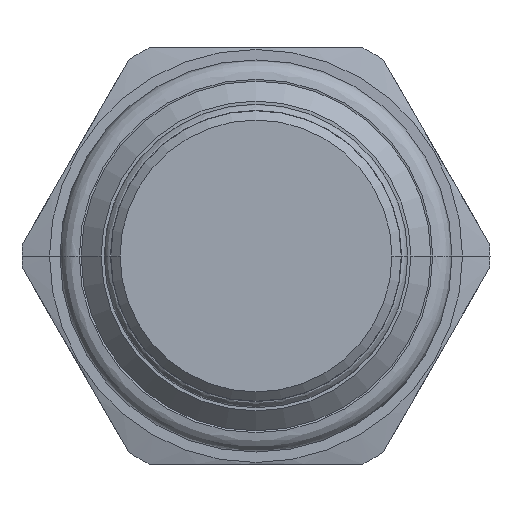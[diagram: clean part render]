
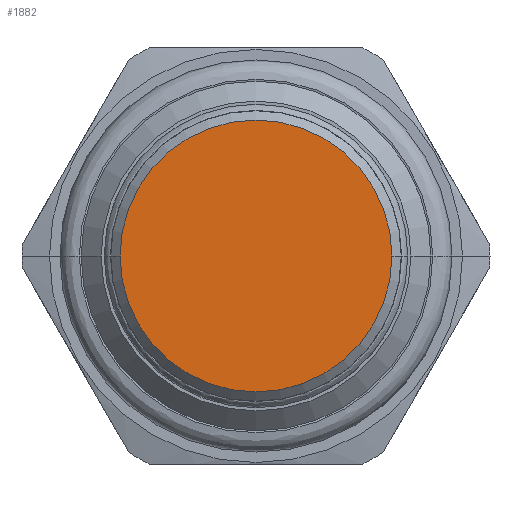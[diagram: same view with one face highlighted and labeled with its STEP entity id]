
A CAD part, front view. The second image highlights one B-rep face of the part: STEP entity #1882.
In plain terms, the highlighted planar face has unit normal (0, -1, 0).
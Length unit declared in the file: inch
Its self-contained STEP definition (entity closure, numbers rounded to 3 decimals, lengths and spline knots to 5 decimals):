
#56=CARTESIAN_POINT('',(0.,-1.81,0.));
#57=DIRECTION('',(0.,-1.,0.));
#58=DIRECTION('',(-1.,0.,0.));
#59=AXIS2_PLACEMENT_3D('',#56,#57,#58);
#80=CARTESIAN_POINT('',(0.,-1.81,0.));
#81=DIRECTION('',(0.,1.,0.));
#82=DIRECTION('',(-1.,0.,0.));
#83=AXIS2_PLACEMENT_3D('',#80,#81,#82);
#1653=CARTESIAN_POINT('',(-0.408,-1.81,0.));
#1654=CARTESIAN_POINT('',(0.408,-1.81,0.));
#1655=VERTEX_POINT('',#1653);
#1656=VERTEX_POINT('',#1654);
#1873=CARTESIAN_POINT('',(0.,-1.81,0.));
#1874=DIRECTION('',(0.,1.,0.));
#1875=DIRECTION('',(1.,0.,0.));
#1876=AXIS2_PLACEMENT_3D('',#1873,#1874,#1875);
#1877=PLANE('',#1876);
#1878=ORIENTED_EDGE('',*,*,#1851,.F.);
#1879=ORIENTED_EDGE('',*,*,#1867,.T.);
#1880=EDGE_LOOP('',(#1878,#1879));
#1881=FACE_OUTER_BOUND('',#1880,.F.);
#1882=ADVANCED_FACE('',(#1881),#1877,.F.);
#60=CIRCLE('',#59,0.408);
#84=CIRCLE('',#83,0.408);
#1851=EDGE_CURVE('',#1655,#1656,#60,.T.);
#1867=EDGE_CURVE('',#1655,#1656,#84,.T.);
